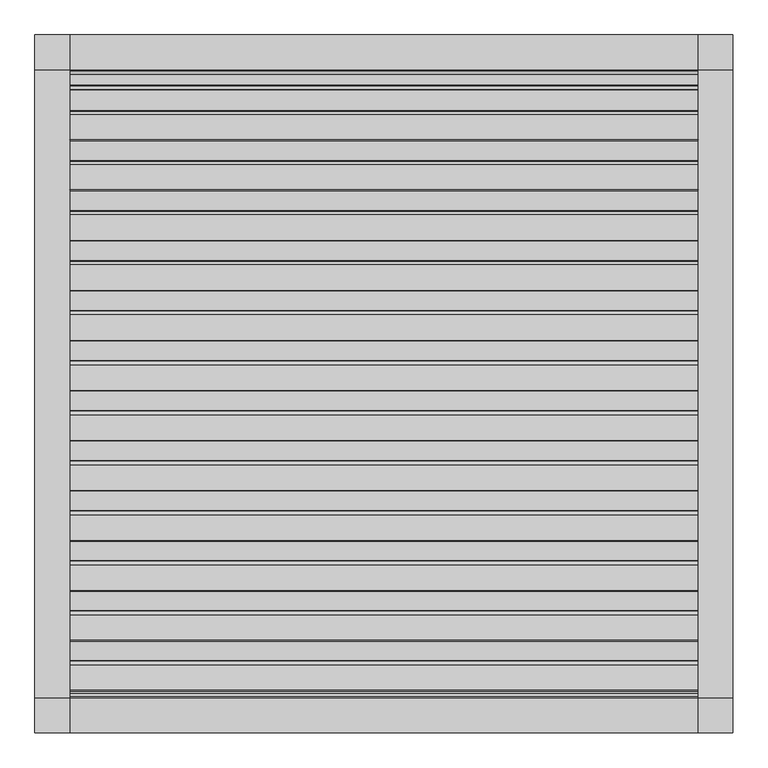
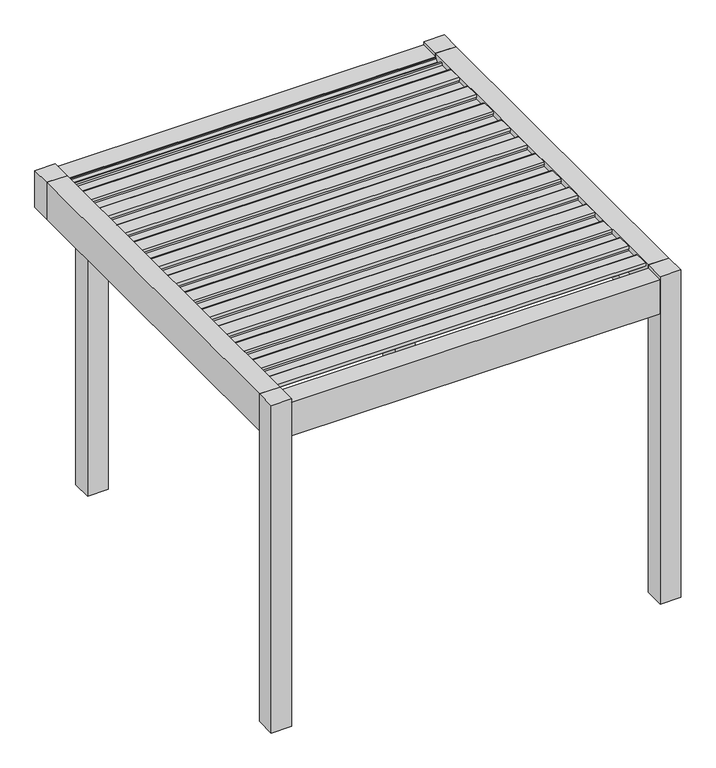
"""IFC4 building model written with IfcOpenShell, lengths in millimetres: proxy geometry, Renson_Amani_Patio_Cover : Renson_Amani_Patio_Cover."""

from ifc_helpers import new_model, si_unit, point, frame, frame_2d, origin, origin_with_axes, place, context, project, spatial, polyline, circle_curve, trimmed, segment, composite_curve, outline, extrude, source, transform, mapped, element, save


def generic_models_fc837481(model_context):
    return source(origin(), model_context, "Body", "SweptSolid", [
        extrude(outline(composite_curve([segment(polyline([(-1073.7289238, 2483.35), (-1076.1490335, 2511.01198), (-1104.984284, 2512.3970364), (-1101.5469529, 2531.8911096), (-991.549838, 2526.6075693)]), True, "CONTINUOUS"), segment(trimmed(circle_curve(frame_2d((-992.26951, 2511.6248435)), 15.0), [point((-991.549838, 2526.6075693))], [point((-977.4973937, 2514.2295662))], False, "CARTESIAN"), True, "CONTINUOUS"), segment(polyline([(-977.4973937, 2514.2295662), (-974.1067023, 2495.0), (-886.3709263, 2495.0), (-883.3594689, 2512.0788237), (-868.0824984, 2511.3450182), (-865.6332517, 2483.35), (-1073.7289238, 2483.35)]), True, "CONTINUOUS")], self_intersect=False)), frame((-1350.0, 0.0, 0.0), z_axis=(1.0, 0.0, 0.0), x_axis=(0.0, 1.0, 0.0)), (0.0, 0.0, 1.0), 2700.0),
        extrude(outline(composite_curve([segment(polyline([(-858.7132078, 2483.35), (-861.1333174, 2511.01198), (-889.9685679, 2512.3970364), (-886.5312368, 2531.8911096), (-776.534122, 2526.6075693)]), True, "CONTINUOUS"), segment(trimmed(circle_curve(frame_2d((-777.2537939, 2511.6248435)), 15.0), [point((-776.534122, 2526.6075693))], [point((-762.4816776, 2514.2295662))], False, "CARTESIAN"), True, "CONTINUOUS"), segment(polyline([(-762.4816776, 2514.2295662), (-759.0909863, 2495.0), (-671.3552102, 2495.0), (-668.3437528, 2512.0788237), (-653.0667824, 2511.3450182), (-650.6175356, 2483.35), (-858.7132078, 2483.35)]), True, "CONTINUOUS")], self_intersect=False)), frame((-1350.0, 0.0, 0.0), z_axis=(1.0, 0.0, 0.0), x_axis=(0.0, 1.0, 0.0)), (0.0, 0.0, 1.0), 2700.0),
        extrude(outline(composite_curve([segment(polyline([(-643.6974917, 2483.35), (-646.1176014, 2511.01198), (-674.9528519, 2512.3970364), (-671.5155208, 2531.8911096), (-561.5184059, 2526.6075693)]), True, "CONTINUOUS"), segment(trimmed(circle_curve(frame_2d((-562.2380779, 2511.6248435)), 15.0), [point((-561.5184059, 2526.6075693))], [point((-547.4659616, 2514.2295662))], False, "CARTESIAN"), True, "CONTINUOUS"), segment(polyline([(-547.4659616, 2514.2295662), (-544.0752702, 2495.0), (-456.3394942, 2495.0), (-453.3280368, 2512.0788237), (-438.0510663, 2511.3450182), (-435.6018196, 2483.35), (-643.6974917, 2483.35)]), True, "CONTINUOUS")], self_intersect=False)), frame((-1350.0, 0.0, 0.0), z_axis=(1.0, 0.0, 0.0), x_axis=(0.0, 1.0, 0.0)), (0.0, 0.0, 1.0), 2700.0),
        extrude(outline(composite_curve([segment(polyline([(-428.6817757, 2483.35), (-431.1018854, 2511.01198), (-459.9371358, 2512.3970364), (-456.4998047, 2531.8911096), (-346.5026899, 2526.6075693)]), True, "CONTINUOUS"), segment(trimmed(circle_curve(frame_2d((-347.2223618, 2511.6248435)), 15.0), [point((-346.5026899, 2526.6075693))], [point((-332.4502455, 2514.2295662))], False, "CARTESIAN"), True, "CONTINUOUS"), segment(polyline([(-332.4502455, 2514.2295662), (-329.0595542, 2495.0), (-241.3237782, 2495.0), (-238.3123207, 2512.0788237), (-223.0353503, 2511.3450182), (-220.5861035, 2483.35), (-428.6817757, 2483.35)]), True, "CONTINUOUS")], self_intersect=False)), frame((-1350.0, 0.0, 0.0), z_axis=(1.0, 0.0, 0.0), x_axis=(0.0, 1.0, 0.0)), (0.0, 0.0, 1.0), 2700.0),
        extrude(outline(composite_curve([segment(polyline([(-213.6660597, 2483.35), (-216.0861693, 2511.01198), (-244.9214198, 2512.3970364), (-241.4840887, 2531.8911096), (-131.4869738, 2526.6075693)]), True, "CONTINUOUS"), segment(trimmed(circle_curve(frame_2d((-132.2066458, 2511.6248435)), 15.0), [point((-131.4869738, 2526.6075693))], [point((-117.4345295, 2514.2295662))], False, "CARTESIAN"), True, "CONTINUOUS"), segment(polyline([(-117.4345295, 2514.2295662), (-114.0438381, 2495.0), (-26.3080621, 2495.0), (-23.2966047, 2512.0788237), (-8.0196342, 2511.3450182), (-5.5703875, 2483.35), (-213.6660597, 2483.35)]), True, "CONTINUOUS")], self_intersect=False)), frame((-1350.0, 0.0, 0.0), z_axis=(1.0, 0.0, 0.0), x_axis=(0.0, 1.0, 0.0)), (0.0, 0.0, 1.0), 2700.0),
        extrude(outline(composite_curve([segment(polyline([(1.3496564, 2483.35), (-1.0704533, 2511.01198), (-29.9057037, 2512.3970364), (-26.4683726, 2531.8911096), (83.5287422, 2526.6075693)]), True, "CONTINUOUS"), segment(trimmed(circle_curve(frame_2d((82.8090703, 2511.6248435)), 15.0), [point((83.5287422, 2526.6075693))], [point((97.5811866, 2514.2295662))], False, "CARTESIAN"), True, "CONTINUOUS"), segment(polyline([(97.5811866, 2514.2295662), (100.9718779, 2495.0), (188.7076539, 2495.0), (191.7191114, 2512.0788237), (206.9960818, 2511.3450182), (209.4453286, 2483.35), (1.3496564, 2483.35)]), True, "CONTINUOUS")], self_intersect=False)), frame((-1350.0, 0.0, 0.0), z_axis=(1.0, 0.0, 0.0), x_axis=(0.0, 1.0, 0.0)), (0.0, 0.0, 1.0), 2700.0),
        extrude(outline(composite_curve([segment(polyline([(216.3653724, 2483.35), (213.9452628, 2511.01198), (185.1100123, 2512.3970364), (188.5473434, 2531.8911096), (298.5444582, 2526.6075693)]), True, "CONTINUOUS"), segment(trimmed(circle_curve(frame_2d((297.8247863, 2511.6248435)), 15.0), [point((298.5444582, 2526.6075693))], [point((312.5969026, 2514.2295662))], False, "CARTESIAN"), True, "CONTINUOUS"), segment(polyline([(312.5969026, 2514.2295662), (315.987594, 2495.0), (403.72337, 2495.0), (406.7348274, 2512.0788237), (422.0117979, 2511.3450182), (424.4610446, 2483.35), (216.3653724, 2483.35)]), True, "CONTINUOUS")], self_intersect=False)), frame((-1350.0, 0.0, 0.0), z_axis=(1.0, 0.0, 0.0), x_axis=(0.0, 1.0, 0.0)), (0.0, 0.0, 1.0), 2700.0),
        extrude(outline(composite_curve([segment(polyline([(431.3810885, 2483.35), (428.9609788, 2511.01198), (400.1257284, 2512.3970364), (403.5630594, 2531.8911096), (513.5601743, 2526.6075693)]), True, "CONTINUOUS"), segment(trimmed(circle_curve(frame_2d((512.8405024, 2511.6248435)), 15.0), [point((513.5601743, 2526.6075693))], [point((527.6126187, 2514.2295662))], False, "CARTESIAN"), True, "CONTINUOUS"), segment(polyline([(527.6126187, 2514.2295662), (531.00331, 2495.0), (618.739086, 2495.0), (621.7505434, 2512.0788237), (637.0275139, 2511.3450182), (639.4767606, 2483.35), (431.3810885, 2483.35)]), True, "CONTINUOUS")], self_intersect=False)), frame((-1350.0, 0.0, 0.0), z_axis=(1.0, 0.0, 0.0), x_axis=(0.0, 1.0, 0.0)), (0.0, 0.0, 1.0), 2700.0),
        extrude(outline(composite_curve([segment(polyline([(646.3968045, 2483.35), (643.9766949, 2511.01198), (615.1414444, 2512.3970364), (618.5787755, 2531.8911096), (728.5758903, 2526.6075693)]), True, "CONTINUOUS"), segment(trimmed(circle_curve(frame_2d((727.8562184, 2511.6248435)), 15.0), [point((728.5758903, 2526.6075693))], [point((742.6283347, 2514.2295662))], False, "CARTESIAN"), True, "CONTINUOUS"), segment(polyline([(742.6283347, 2514.2295662), (746.019026, 2495.0), (833.7548021, 2495.0), (836.7662595, 2512.0788237), (852.04323, 2511.3450182), (854.4924767, 2483.35), (646.3968045, 2483.35)]), True, "CONTINUOUS")], self_intersect=False)), frame((-1350.0, 0.0, 0.0), z_axis=(1.0, 0.0, 0.0), x_axis=(0.0, 1.0, 0.0)), (0.0, 0.0, 1.0), 2700.0),
        extrude(outline(composite_curve([segment(polyline([(861.4125206, 2483.35), (858.9924109, 2511.01198), (830.1571605, 2512.3970364), (833.5944915, 2531.8911096), (943.5916064, 2526.6075693)]), True, "CONTINUOUS"), segment(trimmed(circle_curve(frame_2d((942.8719345, 2511.6248435)), 15.0), [point((943.5916064, 2526.6075693))], [point((957.6440508, 2514.2295662))], False, "CARTESIAN"), True, "CONTINUOUS"), segment(polyline([(957.6440508, 2514.2295662), (961.0347421, 2495.0), (1048.7705181, 2495.0), (1051.7819755, 2512.0788237), (1067.058946, 2511.3450182), (1069.5081927, 2483.35), (861.4125206, 2483.35)]), True, "CONTINUOUS")], self_intersect=False)), frame((-1350.0, 0.0, 0.0), z_axis=(1.0, 0.0, 0.0), x_axis=(0.0, 1.0, 0.0)), (0.0, 0.0, 1.0), 2700.0),
        extrude(outline(composite_curve([segment(polyline([(-1288.7446399, 2483.35), (-1291.1647495, 2511.01198), (-1320.0, 2512.3970364), (-1316.5626689, 2531.8911096), (-1206.5655541, 2526.6075693)]), True, "CONTINUOUS"), segment(trimmed(circle_curve(frame_2d((-1207.285226, 2511.6248435)), 15.0), [point((-1206.5655541, 2526.6075693))], [point((-1192.5131097, 2514.2295662))], False, "CARTESIAN"), True, "CONTINUOUS"), segment(polyline([(-1192.5131097, 2514.2295662), (-1189.1224184, 2495.0), (-1101.3866423, 2495.0), (-1098.3751849, 2512.0788237), (-1083.0982144, 2511.3450182), (-1080.6489677, 2483.35), (-1288.7446399, 2483.35)]), True, "CONTINUOUS")], self_intersect=False)), frame((-1350.0, 0.0, 0.0), z_axis=(1.0, 0.0, 0.0), x_axis=(0.0, 1.0, 0.0)), (0.0, 0.0, 1.0), 2700.0),
        extrude(outline(composite_curve([segment(polyline([(1076.4282366, 2483.35), (1074.008127, 2511.01198), (1045.1728765, 2512.3970364), (1048.6102076, 2531.8911096), (1158.6073224, 2526.6075693)]), True, "CONTINUOUS"), segment(trimmed(circle_curve(frame_2d((1157.8876505, 2511.6248435)), 15.0), [point((1158.6073224, 2526.6075693))], [point((1172.6597668, 2514.2295662))], False, "CARTESIAN"), True, "CONTINUOUS"), segment(polyline([(1172.6597668, 2514.2295662), (1176.0504581, 2495.0), (1263.7862342, 2495.0), (1266.7976916, 2512.0788237), (1282.0746621, 2511.3450182), (1284.5239088, 2483.35), (1076.4282366, 2483.35)]), True, "CONTINUOUS")], self_intersect=False)), frame((-1350.0, 0.0, 0.0), z_axis=(1.0, 0.0, 0.0), x_axis=(0.0, 1.0, 0.0)), (0.0, 0.0, 1.0), 2700.0),
        extrude(outline(polyline([(1200.0, 1500.0), (1200.0, 1350.0), (1050.0, 1350.0), (1050.0, 1500.0), (1200.0, 1500.0)])), origin_with_axes(), (0.0, 0.0, 1.0), 2250.0),
        extrude(outline(polyline([(1500.0, 1500.0), (1500.0, 1350.0), (1350.0, 1350.0), (1350.0, 1500.0), (1500.0, 1500.0)])), frame((0.0, 0.0, 2250.0), z_axis=(0.0, 0.0, 1.0), x_axis=(1.0, 0.0, 0.0)), (0.0, 0.0, 1.0), 285.0),
        extrude(outline(polyline([(-1350.0, 1500.0), (-1350.0, 1350.0), (-1500.0, 1350.0), (-1500.0, 1500.0), (-1350.0, 1500.0)])), frame((0.0, 0.0, 2250.0), z_axis=(0.0, 0.0, 1.0), x_axis=(1.0, 0.0, 0.0)), (0.0, 0.0, 1.0), 285.0),
        extrude(outline(polyline([(1500.0, -1350.0), (1500.0, -1500.0), (1350.0, -1500.0), (1350.0, -1350.0), (1500.0, -1350.0)])), origin_with_axes(), (0.0, 0.0, 1.0), 2535.0),
        extrude(outline(polyline([(-1050.0, 1500.0), (-1050.0, 1350.0), (-1200.0, 1350.0), (-1200.0, 1500.0), (-1050.0, 1500.0)])), origin_with_axes(), (0.0, 0.0, 1.0), 2250.0),
        extrude(outline(polyline([(-1350.0, -1350.0), (-1350.0, -1500.0), (-1500.0, -1500.0), (-1500.0, -1350.0), (-1350.0, -1350.0)])), origin_with_axes(), (0.0, 0.0, 1.0), 2535.0),
        extrude(outline(polyline([(1350.0, 2466.6559373), (1290.0, 2466.6559373), (1286.2487113, 2480.6555802), (1329.5940945, 2480.6555802), (1345.0, 2496.400763), (1345.0, 2504.2449277), (1350.0, 2504.6823598), (1350.0, 2466.6559373)])), frame((-1350.0, 0.0, 0.0), z_axis=(1.0, 0.0, 0.0), x_axis=(0.0, 1.0, 0.0)), (0.0, 0.0, 1.0), 2700.0),
        extrude(outline(polyline([(-1350.0, 2510.0), (-1350.0, 2479.6823598), (-1345.0, 2479.2449277), (-1345.0, 2471.400763), (-1329.2544156, 2455.6555802), (-1319.9090324, 2455.6555802), (-1323.6603211, 2441.6559373), (-1350.0, 2441.6559373), (-1350.0, 2250.0), (-1500.0, 2250.0), (-1500.0, 2510.0), (-1350.0, 2510.0)])), frame((-1350.0, 0.0, 0.0), z_axis=(1.0, 0.0, 0.0), x_axis=(0.0, 1.0, 0.0)), (0.0, 0.0, 1.0), 2700.0),
        extrude(outline(polyline([(1350.0, 1500.0), (1350.0, 1350.0), (-1350.0, 1350.0), (-1350.0, 1500.0), (1350.0, 1500.0)])), frame((0.0, 0.0, 2250.0), z_axis=(0.0, 0.0, 1.0), x_axis=(1.0, 0.0, 0.0)), (0.0, 0.0, 1.0), 260.0),
        extrude(outline(polyline([(2535.0, -1350.0), (2535.0, -1500.0), (2250.0, -1500.0), (2250.0, -1280.0000001), (2322.0, -1280.0000001), (2322.0, -1350.0), (2535.0, -1350.0)])), frame((0.0, -1350.0, 0.0), z_axis=(0.0, 1.0, 0.0), x_axis=(0.0, 0.0, 1.0)), (0.0, 0.0, 1.0), 2700.0),
        extrude(outline(polyline([(2250.0, 1500.0), (2535.0, 1500.0), (2535.0, 1350.0), (2322.0, 1350.0), (2322.0, 1280.0000001), (2250.0, 1280.0000001), (2250.0, 1500.0)])), frame((0.0, -1350.0, 0.0), z_axis=(0.0, 1.0, 0.0), x_axis=(0.0, 0.0, 1.0)), (0.0, 0.0, 1.0), 2700.0),
    ])


if __name__ == "__main__":
    model = new_model("IFC4")
    model_context = context("Model", 3, world=origin())
    ifc_project = project(units=[si_unit("LENGTHUNIT", "METRE", prefix="MILLI")], contexts=[model_context])
    site = spatial("IfcSite", under=ifc_project)
    building = spatial("IfcBuilding", under=site)
    placement = place(None, origin())
    generic_models_shape = generic_models_fc837481(model_context)
    element("IfcBuildingElementProxy", 1, Name="Renson_Amani_Patio_Cover : Renson_Amani_Patio_Cover", ObjectType="Renson_Amani_Patio_Cover : Renson_Amani_Patio_Cover", at=placement, inside=building, context=model_context, shape_type="MappedRepresentation", body=[
        mapped(generic_models_shape, transform((0.0, 0.0, 0.0), x_axis=(1.0, 0.0, 0.0), y_axis=(0.0, 1.0, 0.0), z_axis=(0.0, 0.0, 1.0))),
    ])
    save(model, "model.ifc")
